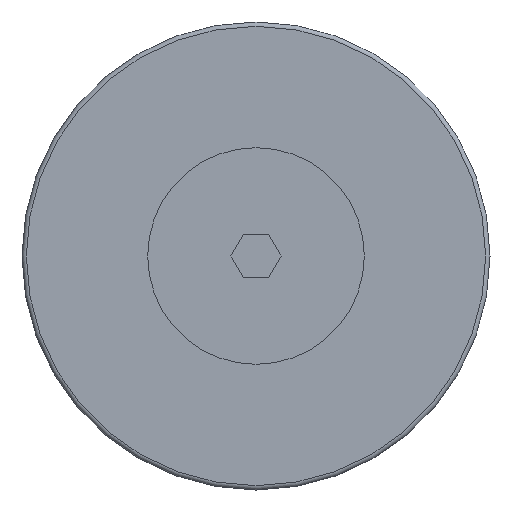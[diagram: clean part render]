
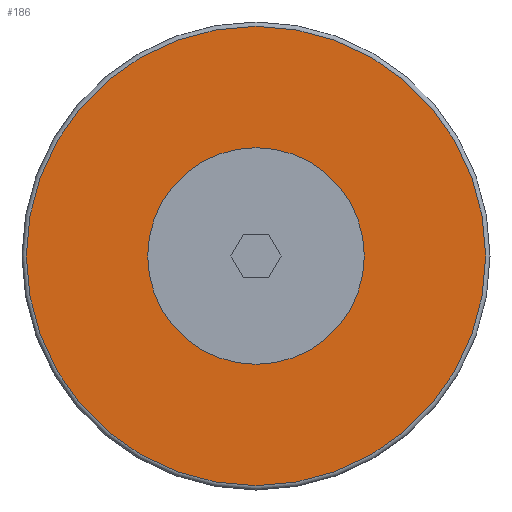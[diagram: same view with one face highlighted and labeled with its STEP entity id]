
A CAD part, front view. The second image highlights one B-rep face of the part: STEP entity #186.
In plain terms, the highlighted planar face has unit normal (0, -1, 0).
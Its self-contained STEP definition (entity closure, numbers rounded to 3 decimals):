
#186=ADVANCED_FACE('',(#262,#263),#264,.F.);
#262=FACE_BOUND('',#386,.T.);
#263=FACE_OUTER_BOUND('',#387,.T.);
#264=PLANE('',#388);
#386=EDGE_LOOP('',(#568));
#387=EDGE_LOOP('',(#569));
#388=AXIS2_PLACEMENT_3D('',#570,#571,#572);
#568=ORIENTED_EDGE('',*,*,#846,.F.);
#569=ORIENTED_EDGE('',*,*,#847,.T.);
#570=CARTESIAN_POINT('',(-26.5,-33.,0.0));
#571=DIRECTION('',(0.0,1.0,0.0));
#572=DIRECTION('',(0.0,0.0,1.0));
#846=EDGE_CURVE('',#962,#962,#963,.T.);
#847=EDGE_CURVE('',#964,#964,#965,.T.);
#962=VERTEX_POINT('',#1142);
#963=CIRCLE('',#1143,12.5);
#964=VERTEX_POINT('',#1144);
#965=CIRCLE('',#1145,26.5);
#1142=CARTESIAN_POINT('',(0.0,-33.,-12.5));
#1143=AXIS2_PLACEMENT_3D('',#1468,#1469,#1470);
#1144=CARTESIAN_POINT('',(0.0,-33.,-26.5));
#1145=AXIS2_PLACEMENT_3D('',#1471,#1472,#1473);
#1468=CARTESIAN_POINT('',(0.0,-33.,0.0));
#1469=DIRECTION('',(0.0,-1.0,0.0));
#1470=DIRECTION('',(0.0,0.0,-1.0));
#1471=CARTESIAN_POINT('',(0.0,-33.,0.0));
#1472=DIRECTION('',(0.0,-1.0,0.0));
#1473=DIRECTION('',(0.0,0.0,-1.0));
